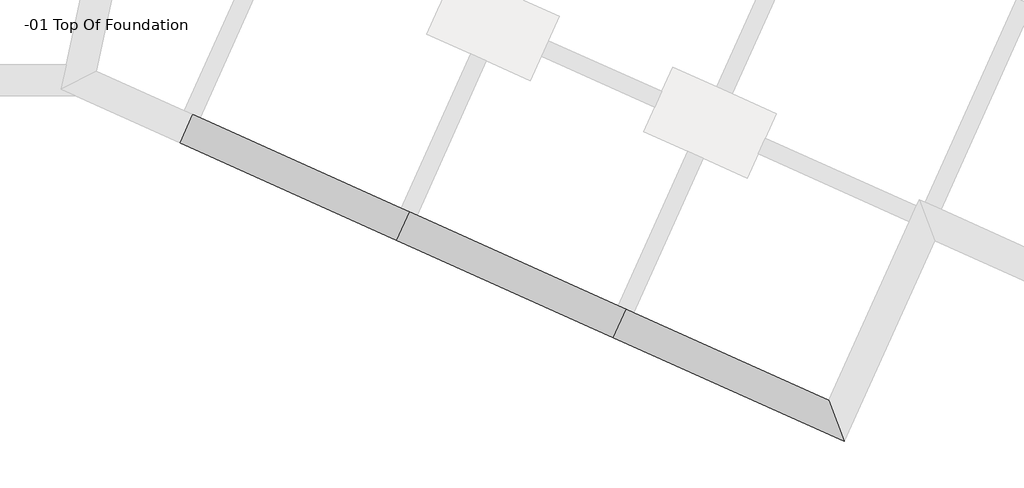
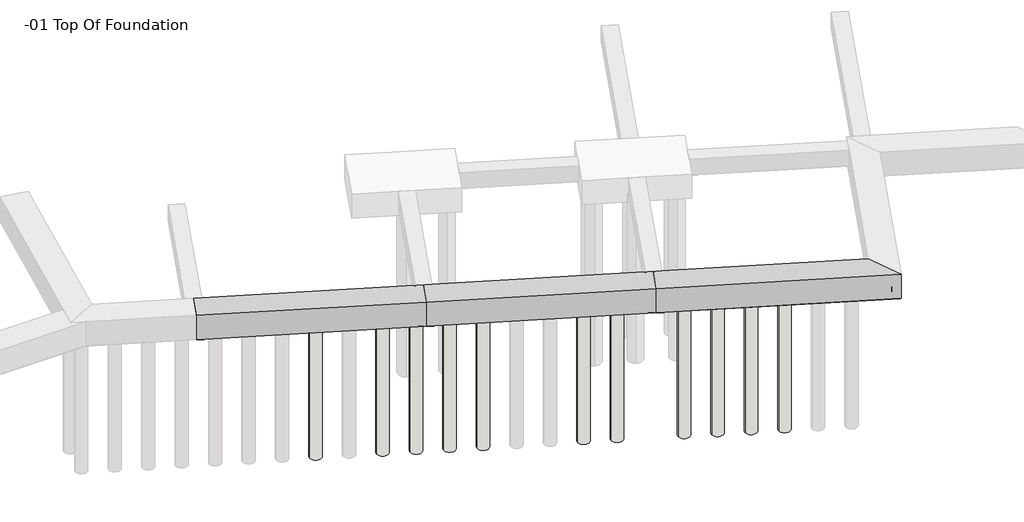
# One storey, part 3 of 6: 11 slabs, 3 beams.
"""IFC4 building model written with IfcOpenShell, lengths in millimetres."""

from ifc_helpers import new_model, si_unit, point, frame, frame_2d, origin, place, context, project, spatial, polyline, circle_curve, trimmed, segment, composite_curve, outline, extrude, element, save
from ifc_brep_helpers import plane_surface, revolved_surface, advanced_brep

model = new_model("IFC4")

# Units and contexts
model_context = context("Model", 3, world=origin())
ifc_project = project(units=[si_unit("LENGTHUNIT", "METRE", prefix="MILLI")], contexts=[model_context])

# Site, building, storey
site = spatial("IfcSite", under=ifc_project)
building = spatial("IfcBuilding", under=site)
storey = spatial("IfcBuildingStorey", under=building, Name="-01 Top Of Foundation", Elevation=-304.8)

# Beams
placement = place(None, origin())
element("IfcBeam", 1, ObjectType="Ring Beam : 16 x 32", at=placement, inside=storey, context=model_context, shape_type="AdvancedBrep", body=[
    advanced_brep(
    [(37370.2819449, -18704.9317073, -304.8), (30975.429262, -15832.377561, -304.8), (30975.429262, -15832.377561, -1193.8), (37370.2819449, -18704.9317073, -1193.8), (37744.9629205, -17870.8204878, -304.8), (37513.2653595, -17766.742439, -304.8), (31581.8077985, -15102.3443902, -304.8), (31350.1102376, -14998.2663415, -304.8), (30985.8370668, -15809.2078049, -1219.2), (37380.6897498, -18681.7619512, -1219.2), (31339.7024327, -15021.4360976, -1219.2), (37734.5551156, -17893.9902439, -1219.2), (31525.3723494, -15668.3307317, -1219.2), (31931.7723494, -15668.3307317, -1219.2), (32456.3101218, -16086.5634146, -1219.2), (32862.7101218, -16086.5634146, -1219.2), (33387.2478943, -16504.7960976, -1219.2), (33793.6478943, -16504.7960976, -1219.2), (34318.1856668, -16923.0287805, -1219.2), (34724.5856668, -16923.0287805, -1219.2), (35249.1234392, -17341.2614634, -1219.2), (35655.5234392, -17341.2614634, -1219.2), (36180.0612117, -17759.4941463, -1219.2), (36586.4612117, -17759.4941463, -1219.2), (37110.9989841, -18177.7268293, -1219.2), (37517.3989841, -18177.7268293, -1219.2), (31350.1102376, -14998.2663415, -1193.8), (37744.9629205, -17870.8204878, -1193.8), (31931.7723494, -15668.3307317, -1066.8), (31525.3723494, -15668.3307317, -1066.8), (32862.7101218, -16086.5634146, -1066.8), (32456.3101218, -16086.5634146, -1066.8), (33793.6478943, -16504.7960976, -1066.8), (33387.2478943, -16504.7960976, -1066.8), (34724.5856668, -16923.0287805, -1066.8), (34318.1856668, -16923.0287805, -1066.8), (35655.5234392, -17341.2614634, -1066.8), (35249.1234392, -17341.2614634, -1066.8), (36586.4612117, -17759.4941463, -1066.8), (36180.0612117, -17759.4941463, -1066.8), (37517.3989841, -18177.7268293, -1066.8), (37110.9989841, -18177.7268293, -1066.8)],
    [
        (0, 1),
        (1, 2),
        (2, 3),
        (3, 0),
        (0, 4),
        (4, 5),
        (5, 6),
        (6, 7),
        (7, 1),
        (2, 8),
        (8, 9),
        (9, 3),
        (8, 10),
        (10, 11),
        (11, 9),
        (12, 13, circle_curve(frame((31728.5723494, -15668.3307317, -1219.2), z_axis=(0.0, 0.0, 1.0), x_axis=(1.0, 0.0, 0.0)), 203.2)),
        (13, 12, circle_curve(frame((31728.5723494, -15668.3307317, -1219.2), z_axis=(0.0, 0.0, 1.0), x_axis=(1.0, 0.0, 0.0)), 203.2)),
        (14, 15, circle_curve(frame((32659.5101218, -16086.5634146, -1219.2), z_axis=(0.0, 0.0, 1.0), x_axis=(1.0, 0.0, 0.0)), 203.2)),
        (15, 14, circle_curve(frame((32659.5101218, -16086.5634146, -1219.2), z_axis=(0.0, 0.0, 1.0), x_axis=(1.0, 0.0, 0.0)), 203.2)),
        (16, 17, circle_curve(frame((33590.4478943, -16504.7960976, -1219.2), z_axis=(0.0, 0.0, 1.0), x_axis=(1.0, 0.0, 0.0)), 203.2)),
        (17, 16, circle_curve(frame((33590.4478943, -16504.7960976, -1219.2), z_axis=(0.0, 0.0, 1.0), x_axis=(1.0, 0.0, 0.0)), 203.2)),
        (18, 19, circle_curve(frame((34521.3856668, -16923.0287805, -1219.2), z_axis=(0.0, 0.0, 1.0), x_axis=(1.0, 0.0, 0.0)), 203.2)),
        (19, 18, circle_curve(frame((34521.3856668, -16923.0287805, -1219.2), z_axis=(0.0, 0.0, 1.0), x_axis=(1.0, 0.0, 0.0)), 203.2)),
        (20, 21, circle_curve(frame((35452.3234392, -17341.2614634, -1219.2), z_axis=(0.0, 0.0, 1.0), x_axis=(1.0, 0.0, 0.0)), 203.2)),
        (21, 20, circle_curve(frame((35452.3234392, -17341.2614634, -1219.2), z_axis=(0.0, 0.0, 1.0), x_axis=(1.0, 0.0, 0.0)), 203.2)),
        (22, 23, circle_curve(frame((36383.2612117, -17759.4941463, -1219.2), z_axis=(0.0, 0.0, 1.0), x_axis=(1.0, 0.0, 0.0)), 203.2)),
        (23, 22, circle_curve(frame((36383.2612117, -17759.4941463, -1219.2), z_axis=(0.0, 0.0, 1.0), x_axis=(1.0, 0.0, 0.0)), 203.2)),
        (24, 25, circle_curve(frame((37314.1989841, -18177.7268293, -1219.2), z_axis=(0.0, 0.0, 1.0), x_axis=(1.0, 0.0, 0.0)), 203.2)),
        (25, 24, circle_curve(frame((37314.1989841, -18177.7268293, -1219.2), z_axis=(0.0, 0.0, 1.0), x_axis=(1.0, 0.0, 0.0)), 203.2)),
        (10, 26),
        (26, 27),
        (27, 11),
        (4, 27),
        (26, 7),
        (28, 29, circle_curve(frame((31728.5723494, -15668.3307317, -1066.8), z_axis=(0.0, 0.0, -1.0), x_axis=(1.0, 0.0, 0.0)), 203.2)),
        (29, 28, circle_curve(frame((31728.5723494, -15668.3307317, -1066.8), z_axis=(0.0, 0.0, -1.0), x_axis=(1.0, 0.0, 0.0)), 203.2)),
        (28, 13),
        (12, 29),
        (30, 31, circle_curve(frame((32659.5101218, -16086.5634146, -1066.8), z_axis=(0.0, 0.0, -1.0), x_axis=(1.0, 0.0, 0.0)), 203.2)),
        (31, 30, circle_curve(frame((32659.5101218, -16086.5634146, -1066.8), z_axis=(0.0, 0.0, -1.0), x_axis=(1.0, 0.0, 0.0)), 203.2)),
        (30, 15),
        (14, 31),
        (32, 33, circle_curve(frame((33590.4478943, -16504.7960976, -1066.8), z_axis=(0.0, 0.0, -1.0), x_axis=(1.0, 0.0, 0.0)), 203.2)),
        (33, 32, circle_curve(frame((33590.4478943, -16504.7960976, -1066.8), z_axis=(0.0, 0.0, -1.0), x_axis=(1.0, 0.0, 0.0)), 203.2)),
        (32, 17),
        (16, 33),
        (34, 35, circle_curve(frame((34521.3856668, -16923.0287805, -1066.8), z_axis=(0.0, 0.0, -1.0), x_axis=(1.0, 0.0, 0.0)), 203.2)),
        (35, 34, circle_curve(frame((34521.3856668, -16923.0287805, -1066.8), z_axis=(0.0, 0.0, -1.0), x_axis=(1.0, 0.0, 0.0)), 203.2)),
        (34, 19),
        (18, 35),
        (36, 37, circle_curve(frame((35452.3234392, -17341.2614634, -1066.8), z_axis=(0.0, 0.0, -1.0), x_axis=(1.0, 0.0, 0.0)), 203.2)),
        (37, 36, circle_curve(frame((35452.3234392, -17341.2614634, -1066.8), z_axis=(0.0, 0.0, -1.0), x_axis=(1.0, 0.0, 0.0)), 203.2)),
        (36, 21),
        (20, 37),
        (38, 39, circle_curve(frame((36383.2612117, -17759.4941463, -1066.8), z_axis=(0.0, 0.0, -1.0), x_axis=(1.0, 0.0, 0.0)), 203.2)),
        (39, 38, circle_curve(frame((36383.2612117, -17759.4941463, -1066.8), z_axis=(0.0, 0.0, -1.0), x_axis=(1.0, 0.0, 0.0)), 203.2)),
        (38, 23),
        (22, 39),
        (40, 41, circle_curve(frame((37314.1989841, -18177.7268293, -1066.8), z_axis=(0.0, 0.0, -1.0), x_axis=(1.0, 0.0, 0.0)), 203.2)),
        (41, 40, circle_curve(frame((37314.1989841, -18177.7268293, -1066.8), z_axis=(0.0, 0.0, -1.0), x_axis=(1.0, 0.0, 0.0)), 203.2)),
        (40, 25),
        (24, 41),
    ],
    [
        plane_surface(frame((37126.9995059, -18595.6497561, -304.8), z_axis=(-0.40975609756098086, -0.9121951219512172, 0.0), x_axis=(-0.9121951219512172, 0.40975609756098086, 0.0))),
        plane_surface(frame((37501.6804815, -17761.5385366, -304.8), z_axis=(0.0, 0.0, 1.0000000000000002), x_axis=(-0.9121951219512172, 0.40975609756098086, 0.0))),
        plane_surface(frame((37126.9995059, -18595.6497561, -1193.8), z_axis=(-0.2897413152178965, -0.645019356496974, -0.7071067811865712), x_axis=(-0.9121951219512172, 0.40975609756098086, 0.0))),
        plane_surface(frame((37137.4073107, -18572.48, -1219.2), z_axis=(0.0, 0.0, -1.0000000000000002), x_axis=(-0.9121951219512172, 0.40975609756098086, 0.0))),
        plane_surface(frame((37491.2726766, -17784.7082927, -1219.2), z_axis=(0.2897413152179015, 0.645019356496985, -0.7071067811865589), x_axis=(-0.9121951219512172, 0.40975609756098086, 0.0))),
        plane_surface(frame((37501.6804815, -17761.5385366, -1193.8), z_axis=(0.40975609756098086, 0.9121951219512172, 0.0), x_axis=(-0.9121951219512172, 0.40975609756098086, 0.0))),
        plane_surface(frame((31162.7697498, -15415.3219512, -304.8), z_axis=(-0.9121951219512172, 0.40975609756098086, 0.0), x_axis=(0.40975609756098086, 0.9121951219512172, 0.0))),
        plane_surface(frame((37557.6224327, -18287.8760976, -304.8), z_axis=(0.9121951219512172, -0.40975609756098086, 0.0), x_axis=(0.40975609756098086, 0.9121951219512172, 0.0))),
        plane_surface(frame((31931.7723494, -15668.3307317, -1066.8), z_axis=(0.0, 0.0, -1.0), x_axis=(0.0, 1.0, 0.0))),
        revolved_surface(polyline([(31931.772349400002, -15668.3307317, -1066.8000000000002), (31931.772349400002, -15668.3307317, -1219.1999999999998)]), (31728.5723494, -15668.3307317, -6096.0), (0.0, 0.0, 1.0)),
        plane_surface(frame((32862.7101218, -16086.5634146, -1066.8), z_axis=(0.0, 0.0, -1.0), x_axis=(0.0, 1.0, 0.0))),
        revolved_surface(polyline([(32862.7101218, -16086.5634146, -1066.8000000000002), (32862.7101218, -16086.5634146, -1219.1999999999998)]), (32659.5101218, -16086.5634146, -6096.0), (0.0, 0.0, 1.0)),
        plane_surface(frame((33793.6478943, -16504.7960976, -1066.8), z_axis=(0.0, 0.0, -1.0), x_axis=(0.0, 1.0, 0.0))),
        revolved_surface(polyline([(33793.6478943, -16504.7960976, -1066.8000000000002), (33793.6478943, -16504.7960976, -1219.1999999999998)]), (33590.4478943, -16504.7960976, -6096.0), (0.0, 0.0, 1.0)),
        plane_surface(frame((34724.5856668, -16923.0287805, -1066.8), z_axis=(0.0, 0.0, -1.0), x_axis=(0.0, 1.0, 0.0))),
        revolved_surface(polyline([(34724.5856668, -16923.0287805, -1066.8000000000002), (34724.5856668, -16923.0287805, -1219.1999999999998)]), (34521.3856668, -16923.0287805, -6096.0), (0.0, 0.0, 1.0)),
        plane_surface(frame((35655.5234392, -17341.2614634, -1066.8), z_axis=(0.0, 0.0, -1.0), x_axis=(0.0, 1.0, 0.0))),
        revolved_surface(polyline([(35655.5234392, -17341.2614634, -1066.8000000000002), (35655.5234392, -17341.2614634, -1219.1999999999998)]), (35452.3234392, -17341.2614634, -6096.0), (0.0, 0.0, 1.0)),
        plane_surface(frame((36586.4612117, -17759.4941463, -1066.8), z_axis=(0.0, 0.0, -1.0), x_axis=(0.0, 1.0, 0.0))),
        revolved_surface(polyline([(36586.4612117, -17759.4941463, -1066.8000000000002), (36586.4612117, -17759.4941463, -1219.1999999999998)]), (36383.2612117, -17759.4941463, -6096.0), (0.0, 0.0, 1.0)),
        plane_surface(frame((37517.3989841, -18177.7268293, -1066.8), z_axis=(0.0, 0.0, -1.0), x_axis=(0.0, 1.0, 0.0))),
        revolved_surface(polyline([(37517.3989841, -18177.7268293, -1066.8000000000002), (37517.3989841, -18177.7268293, -1219.1999999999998)]), (37314.1989841, -18177.7268293, -6096.0), (0.0, 0.0, 1.0)),
    ],
    [
        (0, [[1, 2, 3, 4]]),
        (1, [[-1, 5, 6, 7, 8, 9]]),
        (2, [[-3, 10, 11, 12]]),
        (3, [[-11, 13, 14, 15], [16, 17], [18, 19], [20, 21], [22, 23], [24, 25], [26, 27], [28, 29]]),
        (4, [[-14, 30, 31, 32]]),
        (5, [[-8, -7, -6, 33, -31, 34]]),
        (6, [[-34, -30, -13, -10, -2, -9]]),
        (7, [[-5, -4, -12, -15, -32, -33]]),
        (8, [[35, 36]]),
        (9, [[-35, 37, -16, 38]]),
        (9, [[-36, -38, -17, -37]]),
        (10, [[39, 40]]),
        (11, [[-39, 41, -18, 42]]),
        (11, [[-40, -42, -19, -41]]),
        (12, [[43, 44]]),
        (13, [[-43, 45, -20, 46]]),
        (13, [[-44, -46, -21, -45]]),
        (14, [[47, 48]]),
        (15, [[-47, 49, -22, 50]]),
        (15, [[-48, -50, -23, -49]]),
        (16, [[51, 52]]),
        (17, [[-51, 53, -24, 54]]),
        (17, [[-52, -54, -25, -53]]),
        (18, [[55, 56]]),
        (19, [[-55, 57, -26, 58]]),
        (19, [[-56, -58, -27, -57]]),
        (20, [[59, 60]]),
        (21, [[-59, 61, -28, 62]]),
        (21, [[-60, -62, -29, -61]]),
    ],
),
])
element("IfcBeam", 2, ObjectType="Ring Beam : 16 x 32", at=placement, inside=storey, context=model_context, shape_type="AdvancedBrep", body=[
    advanced_brep(
    [(43765.1346278, -21577.4858537, -304.8), (37370.2819449, -18704.9317073, -304.8), (37370.2819449, -18704.9317073, -1193.8), (43765.1346278, -21577.4858537, -1193.8), (44139.8156034, -20743.3746341, -304.8), (43908.1180425, -20639.2965854, -304.8), (37976.6604815, -17974.8985366, -304.8), (37744.9629205, -17870.8204878, -304.8), (37380.6897498, -18681.7619512, -1219.2), (43775.5424327, -21554.3160976, -1219.2), (37734.5551156, -17893.9902439, -1219.2), (44129.4077985, -20766.5443902, -1219.2), (44015.3641203, -21020.4273407, -1219.2), (43627.5633913, -21105.3556098, -1219.2), (43889.8866191, -21299.7641588, -1219.2), (38041.9367566, -18595.9595122, -1219.2), (38448.3367566, -18595.9595122, -1219.2), (38972.874529, -19014.1921951, -1219.2), (39379.274529, -19014.1921951, -1219.2), (39903.8123015, -19432.424878, -1219.2), (40310.2123015, -19432.424878, -1219.2), (40834.750074, -19850.657561, -1219.2), (41241.150074, -19850.657561, -1219.2), (41765.6878464, -20268.8902439, -1219.2), (42172.0878464, -20268.8902439, -1219.2), (42696.6256189, -20687.1229268, -1219.2), (43103.0256189, -20687.1229268, -1219.2), (37744.9629205, -17870.8204878, -1193.8), (44139.8156034, -20743.3746341, -1193.8), (43889.8866191, -21299.7641588, -1066.8), (44015.3641203, -21020.4273407, -1066.8), (38448.3367566, -18595.9595122, -1066.8), (38041.9367566, -18595.9595122, -1066.8), (39379.274529, -19014.1921951, -1066.8), (38972.874529, -19014.1921951, -1066.8), (40310.2123015, -19432.424878, -1066.8), (39903.8123015, -19432.424878, -1066.8), (41241.150074, -19850.657561, -1066.8), (40834.750074, -19850.657561, -1066.8), (42172.0878464, -20268.8902439, -1066.8), (41765.6878464, -20268.8902439, -1066.8), (43103.0256189, -20687.1229268, -1066.8), (42696.6256189, -20687.1229268, -1066.8), (43627.5633913, -21105.3556098, -1066.8)],
    [
        (0, 1),
        (1, 2),
        (2, 3),
        (3, 0),
        (0, 4),
        (4, 5),
        (5, 6),
        (6, 7),
        (7, 1),
        (2, 8),
        (8, 9),
        (9, 3),
        (8, 10),
        (10, 11),
        (11, 12),
        (12, 13, circle_curve(frame((43830.7633913, -21105.3556098, -1219.2), z_axis=(0.0, 0.0, 1.0), x_axis=(1.0, 0.0, 0.0)), 203.2)),
        (13, 14, circle_curve(frame((43830.7633913, -21105.3556098, -1219.2), z_axis=(0.0, 0.0, 1.0), x_axis=(1.0, 0.0, 0.0)), 203.2)),
        (14, 9),
        (15, 16, circle_curve(frame((38245.1367566, -18595.9595122, -1219.2), z_axis=(0.0, 0.0, 1.0), x_axis=(1.0, 0.0, 0.0)), 203.2)),
        (16, 15, circle_curve(frame((38245.1367566, -18595.9595122, -1219.2), z_axis=(0.0, 0.0, 1.0), x_axis=(1.0, 0.0, 0.0)), 203.2)),
        (17, 18, circle_curve(frame((39176.074529, -19014.1921951, -1219.2), z_axis=(0.0, 0.0, 1.0), x_axis=(1.0, 0.0, 0.0)), 203.2)),
        (18, 17, circle_curve(frame((39176.074529, -19014.1921951, -1219.2), z_axis=(0.0, 0.0, 1.0), x_axis=(1.0, 0.0, 0.0)), 203.2)),
        (19, 20, circle_curve(frame((40107.0123015, -19432.424878, -1219.2), z_axis=(0.0, 0.0, 1.0), x_axis=(1.0, 0.0, 0.0)), 203.2)),
        (20, 19, circle_curve(frame((40107.0123015, -19432.424878, -1219.2), z_axis=(0.0, 0.0, 1.0), x_axis=(1.0, 0.0, 0.0)), 203.2)),
        (21, 22, circle_curve(frame((41037.950074, -19850.657561, -1219.2), z_axis=(0.0, 0.0, 1.0), x_axis=(1.0, 0.0, 0.0)), 203.2)),
        (22, 21, circle_curve(frame((41037.950074, -19850.657561, -1219.2), z_axis=(0.0, 0.0, 1.0), x_axis=(1.0, 0.0, 0.0)), 203.2)),
        (23, 24, circle_curve(frame((41968.8878464, -20268.8902439, -1219.2), z_axis=(0.0, 0.0, 1.0), x_axis=(1.0, 0.0, 0.0)), 203.2)),
        (24, 23, circle_curve(frame((41968.8878464, -20268.8902439, -1219.2), z_axis=(0.0, 0.0, 1.0), x_axis=(1.0, 0.0, 0.0)), 203.2)),
        (25, 26, circle_curve(frame((42899.8256189, -20687.1229268, -1219.2), z_axis=(0.0, 0.0, 1.0), x_axis=(1.0, 0.0, 0.0)), 203.2)),
        (26, 25, circle_curve(frame((42899.8256189, -20687.1229268, -1219.2), z_axis=(0.0, 0.0, 1.0), x_axis=(1.0, 0.0, 0.0)), 203.2)),
        (10, 27),
        (27, 28),
        (28, 11),
        (4, 28),
        (27, 7),
        (14, 29),
        (29, 30),
        (30, 12),
        (31, 32, circle_curve(frame((38245.1367566, -18595.9595122, -1066.8), z_axis=(0.0, 0.0, -1.0), x_axis=(1.0, 0.0, 0.0)), 203.2)),
        (32, 31, circle_curve(frame((38245.1367566, -18595.9595122, -1066.8), z_axis=(0.0, 0.0, -1.0), x_axis=(1.0, 0.0, 0.0)), 203.2)),
        (31, 16),
        (15, 32),
        (33, 34, circle_curve(frame((39176.074529, -19014.1921951, -1066.8), z_axis=(0.0, 0.0, -1.0), x_axis=(1.0, 0.0, 0.0)), 203.2)),
        (34, 33, circle_curve(frame((39176.074529, -19014.1921951, -1066.8), z_axis=(0.0, 0.0, -1.0), x_axis=(1.0, 0.0, 0.0)), 203.2)),
        (33, 18),
        (17, 34),
        (35, 36, circle_curve(frame((40107.0123015, -19432.424878, -1066.8), z_axis=(0.0, 0.0, -1.0), x_axis=(1.0, 0.0, 0.0)), 203.2)),
        (36, 35, circle_curve(frame((40107.0123015, -19432.424878, -1066.8), z_axis=(0.0, 0.0, -1.0), x_axis=(1.0, 0.0, 0.0)), 203.2)),
        (35, 20),
        (19, 36),
        (37, 38, circle_curve(frame((41037.950074, -19850.657561, -1066.8), z_axis=(0.0, 0.0, -1.0), x_axis=(1.0, 0.0, 0.0)), 203.2)),
        (38, 37, circle_curve(frame((41037.950074, -19850.657561, -1066.8), z_axis=(0.0, 0.0, -1.0), x_axis=(1.0, 0.0, 0.0)), 203.2)),
        (37, 22),
        (21, 38),
        (39, 40, circle_curve(frame((41968.8878464, -20268.8902439, -1066.8), z_axis=(0.0, 0.0, -1.0), x_axis=(1.0, 0.0, 0.0)), 203.2)),
        (40, 39, circle_curve(frame((41968.8878464, -20268.8902439, -1066.8), z_axis=(0.0, 0.0, -1.0), x_axis=(1.0, 0.0, 0.0)), 203.2)),
        (39, 24),
        (23, 40),
        (41, 42, circle_curve(frame((42899.8256189, -20687.1229268, -1066.8), z_axis=(0.0, 0.0, -1.0), x_axis=(1.0, 0.0, 0.0)), 203.2)),
        (42, 41, circle_curve(frame((42899.8256189, -20687.1229268, -1066.8), z_axis=(0.0, 0.0, -1.0), x_axis=(1.0, 0.0, 0.0)), 203.2)),
        (41, 26),
        (25, 42),
        (43, 30, circle_curve(frame((43830.7633913, -21105.3556098, -1066.8), z_axis=(0.0, 0.0, -1.0), x_axis=(1.0, 0.0, 0.0)), 203.2)),
        (29, 43, circle_curve(frame((43830.7633913, -21105.3556098, -1066.8), z_axis=(0.0, 0.0, -1.0), x_axis=(1.0, 0.0, 0.0)), 203.2)),
        (13, 43),
    ],
    [
        plane_surface(frame((43521.8521888, -21468.2039024, -304.8), z_axis=(-0.409756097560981, -0.9121951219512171, 0.0), x_axis=(-0.9121951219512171, 0.409756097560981, 0.0))),
        plane_surface(frame((43896.5331644, -20634.0926829, -304.8), z_axis=(0.0, 0.0, 1.0), x_axis=(-0.9121951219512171, 0.409756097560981, 0.0))),
        plane_surface(frame((43521.8521888, -21468.2039024, -1193.8), z_axis=(-0.2897413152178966, -0.6450193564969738, -0.7071067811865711), x_axis=(-0.9121951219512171, 0.409756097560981, 0.0))),
        plane_surface(frame((43532.2599937, -21445.0341463, -1219.2), z_axis=(0.0, 0.0, -1.0), x_axis=(-0.9121951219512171, 0.409756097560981, 0.0))),
        plane_surface(frame((43886.1253595, -20657.262439, -1219.2), z_axis=(0.2897413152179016, 0.645019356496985, -0.7071067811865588), x_axis=(-0.9121951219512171, 0.409756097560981, 0.0))),
        plane_surface(frame((43896.5331644, -20634.0926829, -1193.8), z_axis=(0.409756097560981, 0.9121951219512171, 0.0), x_axis=(-0.9121951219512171, 0.409756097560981, 0.0))),
        plane_surface(frame((37557.6224327, -18287.8760976, -304.8), z_axis=(-0.9121951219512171, 0.409756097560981, 0.0), x_axis=(0.409756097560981, 0.9121951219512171, 0.0))),
        plane_surface(frame((43952.4751156, -21160.4302439, -304.8), z_axis=(0.9121951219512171, -0.409756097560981, 0.0), x_axis=(0.409756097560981, 0.9121951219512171, 0.0))),
        plane_surface(frame((38448.3367566, -18595.9595122, -1066.8), z_axis=(0.0, 0.0, -1.0), x_axis=(0.0, 1.0, 0.0))),
        revolved_surface(polyline([(38448.336756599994, -18595.9595122, -1066.8000000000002), (38448.336756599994, -18595.9595122, -1219.1999999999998)]), (38245.1367566, -18595.9595122, -6096.0), (0.0, 0.0, 1.0)),
        plane_surface(frame((39379.274529, -19014.1921951, -1066.8), z_axis=(0.0, 0.0, -1.0), x_axis=(0.0, 1.0, 0.0))),
        revolved_surface(polyline([(39379.274528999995, -19014.1921951, -1066.8000000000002), (39379.274528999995, -19014.1921951, -1219.1999999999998)]), (39176.074529, -19014.1921951, -6096.0), (0.0, 0.0, 1.0)),
        plane_surface(frame((40310.2123015, -19432.424878, -1066.8), z_axis=(0.0, 0.0, -1.0), x_axis=(0.0, 1.0, 0.0))),
        revolved_surface(polyline([(40310.212301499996, -19432.424878, -1066.8000000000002), (40310.212301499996, -19432.424878, -1219.1999999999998)]), (40107.0123015, -19432.424878, -6096.0), (0.0, 0.0, 1.0)),
        plane_surface(frame((41241.150074, -19850.657561, -1066.8), z_axis=(0.0, 0.0, -1.0), x_axis=(0.0, 1.0, 0.0))),
        revolved_surface(polyline([(41241.150074, -19850.657561, -1066.8000000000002), (41241.150074, -19850.657561, -1219.1999999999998)]), (41037.950074, -19850.657561, -6096.0), (0.0, 0.0, 1.0)),
        plane_surface(frame((42172.0878464, -20268.8902439, -1066.8), z_axis=(0.0, 0.0, -1.0), x_axis=(0.0, 1.0, 0.0))),
        revolved_surface(polyline([(42172.0878464, -20268.8902439, -1066.8000000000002), (42172.0878464, -20268.8902439, -1219.1999999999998)]), (41968.8878464, -20268.8902439, -6096.0), (0.0, 0.0, 1.0)),
        plane_surface(frame((43103.0256189, -20687.1229268, -1066.8), z_axis=(0.0, 0.0, -1.0), x_axis=(0.0, 1.0, 0.0))),
        revolved_surface(polyline([(43103.0256189, -20687.1229268, -1066.8000000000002), (43103.0256189, -20687.1229268, -1219.1999999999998)]), (42899.8256189, -20687.1229268, -6096.0), (0.0, 0.0, 1.0)),
        plane_surface(frame((44033.9633913, -21105.3556098, -1066.8), z_axis=(0.0, 0.0, -1.0), x_axis=(0.0, 1.0, 0.0))),
        revolved_surface(polyline([(44033.9633913, -21105.3556098, -1066.8000000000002), (44033.9633913, -21105.3556098, -1219.1999999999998)]), (43830.7633913, -21105.3556098, -6096.0), (0.0, 0.0, 1.0)),
    ],
    [
        (0, [[1, 2, 3, 4]]),
        (1, [[-1, 5, 6, 7, 8, 9]]),
        (2, [[-3, 10, 11, 12]]),
        (3, [[-11, 13, 14, 15, 16, 17, 18], [19, 20], [21, 22], [23, 24], [25, 26], [27, 28], [29, 30]]),
        (4, [[-14, 31, 32, 33]]),
        (5, [[-8, -7, -6, 34, -32, 35]]),
        (6, [[-35, -31, -13, -10, -2, -9]]),
        (7, [[-5, -4, -12, -18, 36, 37, 38, -15, -33, -34]]),
        (8, [[39, 40]]),
        (9, [[-39, 41, -19, 42]]),
        (9, [[-40, -42, -20, -41]]),
        (10, [[43, 44]]),
        (11, [[-43, 45, -21, 46]]),
        (11, [[-44, -46, -22, -45]]),
        (12, [[47, 48]]),
        (13, [[-47, 49, -23, 50]]),
        (13, [[-48, -50, -24, -49]]),
        (14, [[51, 52]]),
        (15, [[-51, 53, -25, 54]]),
        (15, [[-52, -54, -26, -53]]),
        (16, [[55, 56]]),
        (17, [[-55, 57, -27, 58]]),
        (17, [[-56, -58, -28, -57]]),
        (18, [[59, 60]]),
        (19, [[-59, 61, -29, 62]]),
        (19, [[-60, -62, -30, -61]]),
        (20, [[63, -37, 64]]),
        (21, [[-64, -36, -17, 65]]),
        (21, [[-63, -65, -16, -38]]),
    ],
),
])
element("IfcBeam", 3, ObjectType="Ring Beam : 16 x 32", at=placement, inside=storey, context=model_context, shape_type="AdvancedBrep", body=[
    advanced_brep(
    [(50577.0429205, -24637.3804878, -304.8), (43765.1346278, -21577.4858537, -304.8), (43765.1346278, -21577.4858537, -1193.8), (50577.0429205, -24637.3804878, -1193.8), (50117.6126766, -23428.5882927, -304.8), (44371.5131644, -20847.4526829, -304.8), (44139.8156034, -20743.3746341, -304.8), (43775.5424327, -21554.3160976, -1219.2), (50564.2809693, -24603.8029268, -1219.2), (43889.8866191, -21299.7641588, -1219.2), (44033.9633913, -21105.3556098, -1219.2), (44015.3641203, -21020.4273407, -1219.2), (44129.4077985, -20766.5443902, -1219.2), (50130.3746278, -23462.1658537, -1219.2), (50275.1353006, -23843.0410218, -1219.2), (50161.9697498, -23949.7219512, -1219.2), (50419.5202965, -24222.9277587, -1219.2), (44558.5011638, -21523.5882927, -1219.2), (44964.9011638, -21523.5882927, -1219.2), (45489.4389363, -21941.8209756, -1219.2), (45895.8389363, -21941.8209756, -1219.2), (46420.3767087, -22360.0536585, -1219.2), (46826.7767087, -22360.0536585, -1219.2), (47351.3144812, -22778.2863415, -1219.2), (47757.7144812, -22778.2863415, -1219.2), (48282.2522536, -23196.5190244, -1219.2), (48688.6522536, -23196.5190244, -1219.2), (49213.1900261, -23614.7517073, -1219.2), (49619.5900261, -23614.7517073, -1219.2), (44139.8156034, -20743.3746341, -1193.8), (50117.6126766, -23428.5882927, -1193.8), (44015.3641203, -21020.4273407, -1066.8), (43889.8866191, -21299.7641588, -1066.8), (44033.9633913, -21105.3556098, -1066.8), (44964.9011638, -21523.5882927, -1066.8), (44558.5011638, -21523.5882927, -1066.8), (45895.8389363, -21941.8209756, -1066.8), (45489.4389363, -21941.8209756, -1066.8), (46826.7767087, -22360.0536585, -1066.8), (46420.3767087, -22360.0536585, -1066.8), (47757.7144812, -22778.2863415, -1066.8), (47351.3144812, -22778.2863415, -1066.8), (48688.6522536, -23196.5190244, -1066.8), (48282.2522536, -23196.5190244, -1066.8), (49619.5900261, -23614.7517073, -1066.8), (49213.1900261, -23614.7517073, -1066.8), (50161.9697498, -23949.7219512, -1066.8), (50275.1353006, -23843.0410218, -1066.8), (50419.5202965, -24222.9277587, -1066.8)],
    [
        (0, 1),
        (1, 2),
        (2, 3),
        (3, 0),
        (0, 4),
        (4, 5),
        (5, 6),
        (6, 1),
        (2, 7),
        (7, 8),
        (8, 3),
        (7, 9),
        (9, 10, circle_curve(frame((43830.7633913, -21105.3556098, -1219.2), z_axis=(0.0, 0.0, 1.0), x_axis=(1.0, 0.0, 0.0)), 203.2)),
        (10, 11, circle_curve(frame((43830.7633913, -21105.3556098, -1219.2), z_axis=(0.0, 0.0, 1.0), x_axis=(1.0, 0.0, 0.0)), 203.2)),
        (11, 12),
        (12, 13),
        (13, 14),
        (14, 15, circle_curve(frame((50347.3277985, -24032.9843902, -1219.2), z_axis=(0.0, 0.0, 1.0), x_axis=(0.9121951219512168, -0.4097560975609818, 0.0)), 203.2)),
        (15, 16, circle_curve(frame((50347.3277985, -24032.9843902, -1219.2), z_axis=(0.0, 0.0, 1.0), x_axis=(0.9121951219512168, -0.4097560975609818, 0.0)), 203.2)),
        (16, 8),
        (17, 18, circle_curve(frame((44761.7011638, -21523.5882927, -1219.2), z_axis=(0.0, 0.0, 1.0), x_axis=(1.0, 0.0, 0.0)), 203.2)),
        (18, 17, circle_curve(frame((44761.7011638, -21523.5882927, -1219.2), z_axis=(0.0, 0.0, 1.0), x_axis=(1.0, 0.0, 0.0)), 203.2)),
        (19, 20, circle_curve(frame((45692.6389363, -21941.8209756, -1219.2), z_axis=(0.0, 0.0, 1.0), x_axis=(1.0, 0.0, 0.0)), 203.2)),
        (20, 19, circle_curve(frame((45692.6389363, -21941.8209756, -1219.2), z_axis=(0.0, 0.0, 1.0), x_axis=(1.0, 0.0, 0.0)), 203.2)),
        (21, 22, circle_curve(frame((46623.5767087, -22360.0536585, -1219.2), z_axis=(0.0, 0.0, 1.0), x_axis=(1.0, 0.0, 0.0)), 203.2)),
        (22, 21, circle_curve(frame((46623.5767087, -22360.0536585, -1219.2), z_axis=(0.0, 0.0, 1.0), x_axis=(1.0, 0.0, 0.0)), 203.2)),
        (23, 24, circle_curve(frame((47554.5144812, -22778.2863415, -1219.2), z_axis=(0.0, 0.0, 1.0), x_axis=(1.0, 0.0, 0.0)), 203.2)),
        (24, 23, circle_curve(frame((47554.5144812, -22778.2863415, -1219.2), z_axis=(0.0, 0.0, 1.0), x_axis=(1.0, 0.0, 0.0)), 203.2)),
        (25, 26, circle_curve(frame((48485.4522536, -23196.5190244, -1219.2), z_axis=(0.0, 0.0, 1.0), x_axis=(1.0, 0.0, 0.0)), 203.2)),
        (26, 25, circle_curve(frame((48485.4522536, -23196.5190244, -1219.2), z_axis=(0.0, 0.0, 1.0), x_axis=(1.0, 0.0, 0.0)), 203.2)),
        (27, 28, circle_curve(frame((49416.3900261, -23614.7517073, -1219.2), z_axis=(0.0, 0.0, 1.0), x_axis=(1.0, 0.0, 0.0)), 203.2)),
        (28, 27, circle_curve(frame((49416.3900261, -23614.7517073, -1219.2), z_axis=(0.0, 0.0, 1.0), x_axis=(1.0, 0.0, 0.0)), 203.2)),
        (12, 29),
        (29, 30),
        (30, 13),
        (4, 30),
        (29, 6),
        (11, 31),
        (31, 32),
        (32, 9),
        (31, 33, circle_curve(frame((43830.7633913, -21105.3556098, -1066.8), z_axis=(0.0, 0.0, -1.0), x_axis=(1.0, 0.0, 0.0)), 203.2)),
        (33, 32, circle_curve(frame((43830.7633913, -21105.3556098, -1066.8), z_axis=(0.0, 0.0, -1.0), x_axis=(1.0, 0.0, 0.0)), 203.2)),
        (33, 10),
        (34, 35, circle_curve(frame((44761.7011638, -21523.5882927, -1066.8), z_axis=(0.0, 0.0, -1.0), x_axis=(1.0, 0.0, 0.0)), 203.2)),
        (35, 34, circle_curve(frame((44761.7011638, -21523.5882927, -1066.8), z_axis=(0.0, 0.0, -1.0), x_axis=(1.0, 0.0, 0.0)), 203.2)),
        (34, 18),
        (17, 35),
        (36, 37, circle_curve(frame((45692.6389363, -21941.8209756, -1066.8), z_axis=(0.0, 0.0, -1.0), x_axis=(1.0, 0.0, 0.0)), 203.2)),
        (37, 36, circle_curve(frame((45692.6389363, -21941.8209756, -1066.8), z_axis=(0.0, 0.0, -1.0), x_axis=(1.0, 0.0, 0.0)), 203.2)),
        (36, 20),
        (19, 37),
        (38, 39, circle_curve(frame((46623.5767087, -22360.0536585, -1066.8), z_axis=(0.0, 0.0, -1.0), x_axis=(1.0, 0.0, 0.0)), 203.2)),
        (39, 38, circle_curve(frame((46623.5767087, -22360.0536585, -1066.8), z_axis=(0.0, 0.0, -1.0), x_axis=(1.0, 0.0, 0.0)), 203.2)),
        (38, 22),
        (21, 39),
        (40, 41, circle_curve(frame((47554.5144812, -22778.2863415, -1066.8), z_axis=(0.0, 0.0, -1.0), x_axis=(1.0, 0.0, 0.0)), 203.2)),
        (41, 40, circle_curve(frame((47554.5144812, -22778.2863415, -1066.8), z_axis=(0.0, 0.0, -1.0), x_axis=(1.0, 0.0, 0.0)), 203.2)),
        (40, 24),
        (23, 41),
        (42, 43, circle_curve(frame((48485.4522536, -23196.5190244, -1066.8), z_axis=(0.0, 0.0, -1.0), x_axis=(1.0, 0.0, 0.0)), 203.2)),
        (43, 42, circle_curve(frame((48485.4522536, -23196.5190244, -1066.8), z_axis=(0.0, 0.0, -1.0), x_axis=(1.0, 0.0, 0.0)), 203.2)),
        (42, 26),
        (25, 43),
        (44, 45, circle_curve(frame((49416.3900261, -23614.7517073, -1066.8), z_axis=(0.0, 0.0, -1.0), x_axis=(1.0, 0.0, 0.0)), 203.2)),
        (45, 44, circle_curve(frame((49416.3900261, -23614.7517073, -1066.8), z_axis=(0.0, 0.0, -1.0), x_axis=(1.0, 0.0, 0.0)), 203.2)),
        (44, 28),
        (27, 45),
        (46, 47, circle_curve(frame((50347.3277985, -24032.9843902, -1066.8), z_axis=(0.0, 0.0, -1.0), x_axis=(0.9121951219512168, -0.4097560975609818, 0.0)), 203.2)),
        (47, 48),
        (48, 46, circle_curve(frame((50347.3277985, -24032.9843902, -1066.8), z_axis=(0.0, 0.0, -1.0), x_axis=(0.9121951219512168, -0.4097560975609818, 0.0)), 203.2)),
        (48, 16),
        (15, 46),
        (14, 47),
    ],
    [
        plane_surface(frame((49731.3468229, -24257.4956098, -304.8), z_axis=(-0.40975609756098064, -0.9121951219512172, 0.0), x_axis=(-0.9121951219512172, 0.40975609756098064, 0.0))),
        plane_surface(frame((50106.0277985, -23423.3843902, -304.8), z_axis=(0.0, 0.0, 1.0), x_axis=(-0.9121951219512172, 0.40975609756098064, 0.0))),
        plane_surface(frame((49731.3468229, -24257.4956098, -1193.8), z_axis=(-0.2897413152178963, -0.645019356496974, -0.7071067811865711), x_axis=(-0.9121951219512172, 0.40975609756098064, 0.0))),
        plane_surface(frame((49741.7546278, -24234.3258537, -1219.2), z_axis=(0.0, 0.0, -1.0), x_axis=(-0.9121951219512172, 0.40975609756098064, 0.0))),
        plane_surface(frame((50095.6199937, -23446.5541463, -1219.2), z_axis=(0.2897413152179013, 0.645019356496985, -0.7071067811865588), x_axis=(-0.9121951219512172, 0.40975609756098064, 0.0))),
        plane_surface(frame((50106.0277985, -23423.3843902, -1193.8), z_axis=(0.40975609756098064, 0.9121951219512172, 0.0), x_axis=(-0.9121951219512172, 0.40975609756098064, 0.0))),
        plane_surface(frame((43952.4751156, -21160.4302439, -304.8), z_axis=(-0.9121951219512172, 0.4097560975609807, 0.0), x_axis=(0.4097560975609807, 0.9121951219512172, 0.0))),
        plane_surface(frame((44033.9633913, -21105.3556098, -1066.8), z_axis=(0.0, 0.0, -1.0), x_axis=(0.0, 1.0, 0.0))),
        revolved_surface(polyline([(44033.9633913, -21105.3556098, -1066.8000000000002), (44033.9633913, -21105.3556098, -1219.1999999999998)]), (43830.7633913, -21105.3556098, -6096.0), (0.0, 0.0, 1.0)),
        plane_surface(frame((44964.9011638, -21523.5882927, -1066.8), z_axis=(0.0, 0.0, -1.0), x_axis=(0.0, 1.0, 0.0))),
        revolved_surface(polyline([(44964.901163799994, -21523.5882927, -1066.8000000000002), (44964.901163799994, -21523.5882927, -1219.1999999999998)]), (44761.7011638, -21523.5882927, -6096.0), (0.0, 0.0, 1.0)),
        plane_surface(frame((45895.8389363, -21941.8209756, -1066.8), z_axis=(0.0, 0.0, -1.0), x_axis=(0.0, 1.0, 0.0))),
        revolved_surface(polyline([(45895.838936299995, -21941.8209756, -1066.8000000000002), (45895.838936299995, -21941.8209756, -1219.1999999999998)]), (45692.6389363, -21941.8209756, -6096.0), (0.0, 0.0, 1.0)),
        plane_surface(frame((46826.7767087, -22360.0536585, -1066.8), z_axis=(0.0, 0.0, -1.0), x_axis=(0.0, 1.0, 0.0))),
        revolved_surface(polyline([(46826.776708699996, -22360.0536585, -1066.8000000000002), (46826.776708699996, -22360.0536585, -1219.1999999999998)]), (46623.5767087, -22360.0536585, -6096.0), (0.0, 0.0, 1.0)),
        plane_surface(frame((47757.7144812, -22778.2863415, -1066.8), z_axis=(0.0, 0.0, -1.0), x_axis=(0.0, 1.0, 0.0))),
        revolved_surface(polyline([(47757.7144812, -22778.2863415, -1066.8000000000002), (47757.7144812, -22778.2863415, -1219.1999999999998)]), (47554.5144812, -22778.2863415, -6096.0), (0.0, 0.0, 1.0)),
        plane_surface(frame((48688.6522536, -23196.5190244, -1066.8), z_axis=(0.0, 0.0, -1.0), x_axis=(0.0, 1.0, 0.0))),
        revolved_surface(polyline([(48688.6522536, -23196.5190244, -1066.8000000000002), (48688.6522536, -23196.5190244, -1219.1999999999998)]), (48485.4522536, -23196.5190244, -6096.0), (0.0, 0.0, 1.0)),
        plane_surface(frame((49619.5900261, -23614.7517073, -1066.8), z_axis=(0.0, 0.0, -1.0), x_axis=(0.0, 1.0, 0.0))),
        revolved_surface(polyline([(49619.5900261, -23614.7517073, -1066.8000000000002), (49619.5900261, -23614.7517073, -1219.1999999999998)]), (49416.3900261, -23614.7517073, -6096.0), (0.0, 0.0, 1.0)),
        plane_surface(frame((50532.6858473, -24116.2468293, -1066.8), z_axis=(0.0, 0.0, -1.0), x_axis=(0.4097560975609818, 0.9121951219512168, 0.0))),
        revolved_surface(polyline([(50532.68584728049, -24116.24682922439, -1066.8000000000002), (50532.68584728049, -24116.24682922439, -1219.1999999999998)]), (50347.3277985, -24032.9843902, -6096.0), (0.0, 0.0, 1.0)),
        plane_surface(frame((50117.6126766, -23428.5882927, -304.8), z_axis=(0.9347606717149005, 0.355278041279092, 0.0), x_axis=(0.355278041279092, -0.9347606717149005, 0.0))),
    ],
    [
        (0, [[1, 2, 3, 4]]),
        (1, [[-1, 5, 6, 7, 8]]),
        (2, [[-3, 9, 10, 11]]),
        (3, [[-10, 12, 13, 14, 15, 16, 17, 18, 19, 20], [21, 22], [23, 24], [25, 26], [27, 28], [29, 30], [31, 32]]),
        (4, [[-16, 33, 34, 35]]),
        (5, [[-7, -6, 36, -34, 37]]),
        (6, [[-37, -33, -15, 38, 39, 40, -12, -9, -2, -8]]),
        (7, [[41, 42, -39]]),
        (8, [[-42, 43, -13, -40]]),
        (8, [[-41, -38, -14, -43]]),
        (9, [[44, 45]]),
        (10, [[-44, 46, -21, 47]]),
        (10, [[-45, -47, -22, -46]]),
        (11, [[48, 49]]),
        (12, [[-48, 50, -23, 51]]),
        (12, [[-49, -51, -24, -50]]),
        (13, [[52, 53]]),
        (14, [[-52, 54, -25, 55]]),
        (14, [[-53, -55, -26, -54]]),
        (15, [[56, 57]]),
        (16, [[-56, 58, -27, 59]]),
        (16, [[-57, -59, -28, -58]]),
        (17, [[60, 61]]),
        (18, [[-60, 62, -29, 63]]),
        (18, [[-61, -63, -30, -62]]),
        (19, [[64, 65]]),
        (20, [[-64, 66, -31, 67]]),
        (20, [[-65, -67, -32, -66]]),
        (21, [[68, 69, 70]]),
        (22, [[-70, 71, -19, 72]]),
        (22, [[-68, -72, -18, 73]]),
        (23, [[-5, -4, -11, -20, -71, -69, -73, -17, -35, -36]]),
    ],
),
])

# Slabs
element("IfcSlab", 4, ObjectType="Round In Situ Concrete Pile : 16\" Diameter", at=placement, inside=storey, context=model_context, shape_type="SweptSolid", body=[
    extrude(outline(composite_curve([segment(trimmed(circle_curve(frame_2d((34521.3856668, -16923.0287805)), 203.2), [point((34318.1856668, -16923.0287805))], [point((34724.5856668, -16923.0287805))], False, "CARTESIAN"), True, "CONTINUOUS"), segment(trimmed(circle_curve(frame_2d((34521.3856668, -16923.0287805)), 203.2), [point((34724.5856668, -16923.0287805))], [point((34318.1856668, -16923.0287805))], False, "CARTESIAN"), True, "CONTINUOUS")], self_intersect=False)), frame((0.0, 0.0, -6096.0), z_axis=(0.0, 0.0, 1.0), x_axis=(1.0, 0.0, 0.0)), (0.0, 0.0, 1.0), 5029.2),
])
element("IfcSlab", 5, ObjectType="Round In Situ Concrete Pile : 16\" Diameter", at=placement, inside=storey, context=model_context, shape_type="SweptSolid", body=[
    extrude(outline(composite_curve([segment(trimmed(circle_curve(frame_2d((36383.2612117, -17759.4941463)), 203.2), [point((36180.0612117, -17759.4941463))], [point((36586.4612117, -17759.4941463))], False, "CARTESIAN"), True, "CONTINUOUS"), segment(trimmed(circle_curve(frame_2d((36383.2612117, -17759.4941463)), 203.2), [point((36586.4612117, -17759.4941463))], [point((36180.0612117, -17759.4941463))], False, "CARTESIAN"), True, "CONTINUOUS")], self_intersect=False)), frame((0.0, 0.0, -6096.0), z_axis=(0.0, 0.0, 1.0), x_axis=(1.0, 0.0, 0.0)), (0.0, 0.0, 1.0), 5029.2),
])
element("IfcSlab", 6, ObjectType="Round In Situ Concrete Pile : 16\" Diameter", at=placement, inside=storey, context=model_context, shape_type="SweptSolid", body=[
    extrude(outline(composite_curve([segment(trimmed(circle_curve(frame_2d((37314.1989841, -18177.7268293)), 203.2), [point((37110.9989841, -18177.7268293))], [point((37517.3989841, -18177.7268293))], False, "CARTESIAN"), True, "CONTINUOUS"), segment(trimmed(circle_curve(frame_2d((37314.1989841, -18177.7268293)), 203.2), [point((37517.3989841, -18177.7268293))], [point((37110.9989841, -18177.7268293))], False, "CARTESIAN"), True, "CONTINUOUS")], self_intersect=False)), frame((0.0, 0.0, -6096.0), z_axis=(0.0, 0.0, 1.0), x_axis=(1.0, 0.0, 0.0)), (0.0, 0.0, 1.0), 5029.2),
])
element("IfcSlab", 7, ObjectType="Round In Situ Concrete Pile : 16\" Diameter", at=placement, inside=storey, context=model_context, shape_type="SweptSolid", body=[
    extrude(outline(composite_curve([segment(trimmed(circle_curve(frame_2d((38245.1367566, -18595.9595122)), 203.2), [point((38041.9367566, -18595.9595122))], [point((38448.3367566, -18595.9595122))], False, "CARTESIAN"), True, "CONTINUOUS"), segment(trimmed(circle_curve(frame_2d((38245.1367566, -18595.9595122)), 203.2), [point((38448.3367566, -18595.9595122))], [point((38041.9367566, -18595.9595122))], False, "CARTESIAN"), True, "CONTINUOUS")], self_intersect=False)), frame((0.0, 0.0, -6096.0), z_axis=(0.0, 0.0, 1.0), x_axis=(1.0, 0.0, 0.0)), (0.0, 0.0, 1.0), 5029.2),
])
element("IfcSlab", 8, ObjectType="Round In Situ Concrete Pile : 16\" Diameter", at=placement, inside=storey, context=model_context, shape_type="SweptSolid", body=[
    extrude(outline(composite_curve([segment(trimmed(circle_curve(frame_2d((39176.074529, -19014.1921951)), 203.2), [point((38972.874529, -19014.1921951))], [point((39379.274529, -19014.1921951))], False, "CARTESIAN"), True, "CONTINUOUS"), segment(trimmed(circle_curve(frame_2d((39176.074529, -19014.1921951)), 203.2), [point((39379.274529, -19014.1921951))], [point((38972.874529, -19014.1921951))], False, "CARTESIAN"), True, "CONTINUOUS")], self_intersect=False)), frame((0.0, 0.0, -6096.0), z_axis=(0.0, 0.0, 1.0), x_axis=(1.0, 0.0, 0.0)), (0.0, 0.0, 1.0), 5029.2),
])
element("IfcSlab", 9, ObjectType="Round In Situ Concrete Pile : 16\" Diameter", at=placement, inside=storey, context=model_context, shape_type="SweptSolid", body=[
    extrude(outline(composite_curve([segment(trimmed(circle_curve(frame_2d((41968.8878464, -20268.8902439)), 203.2), [point((41765.6878464, -20268.8902439))], [point((42172.0878464, -20268.8902439))], False, "CARTESIAN"), True, "CONTINUOUS"), segment(trimmed(circle_curve(frame_2d((41968.8878464, -20268.8902439)), 203.2), [point((42172.0878464, -20268.8902439))], [point((41765.6878464, -20268.8902439))], False, "CARTESIAN"), True, "CONTINUOUS")], self_intersect=False)), frame((0.0, 0.0, -6096.0), z_axis=(0.0, 0.0, 1.0), x_axis=(1.0, 0.0, 0.0)), (0.0, 0.0, 1.0), 5029.2),
])
element("IfcSlab", 10, ObjectType="Round In Situ Concrete Pile : 16\" Diameter", at=placement, inside=storey, context=model_context, shape_type="SweptSolid", body=[
    extrude(outline(composite_curve([segment(trimmed(circle_curve(frame_2d((42899.8256189, -20687.1229268)), 203.2), [point((42696.6256189, -20687.1229268))], [point((43103.0256189, -20687.1229268))], False, "CARTESIAN"), True, "CONTINUOUS"), segment(trimmed(circle_curve(frame_2d((42899.8256189, -20687.1229268)), 203.2), [point((43103.0256189, -20687.1229268))], [point((42696.6256189, -20687.1229268))], False, "CARTESIAN"), True, "CONTINUOUS")], self_intersect=False)), frame((0.0, 0.0, -6096.0), z_axis=(0.0, 0.0, 1.0), x_axis=(1.0, 0.0, 0.0)), (0.0, 0.0, 1.0), 5029.2),
])
element("IfcSlab", 11, ObjectType="Round In Situ Concrete Pile : 16\" Diameter", at=placement, inside=storey, context=model_context, shape_type="SweptSolid", body=[
    extrude(outline(composite_curve([segment(trimmed(circle_curve(frame_2d((44761.7011638, -21523.5882927)), 203.2), [point((44558.5011638, -21523.5882927))], [point((44964.9011638, -21523.5882927))], False, "CARTESIAN"), True, "CONTINUOUS"), segment(trimmed(circle_curve(frame_2d((44761.7011638, -21523.5882927)), 203.2), [point((44964.9011638, -21523.5882927))], [point((44558.5011638, -21523.5882927))], False, "CARTESIAN"), True, "CONTINUOUS")], self_intersect=False)), frame((0.0, 0.0, -6096.0), z_axis=(0.0, 0.0, 1.0), x_axis=(1.0, 0.0, 0.0)), (0.0, 0.0, 1.0), 5029.2),
])
element("IfcSlab", 12, ObjectType="Round In Situ Concrete Pile : 16\" Diameter", at=placement, inside=storey, context=model_context, shape_type="SweptSolid", body=[
    extrude(outline(composite_curve([segment(trimmed(circle_curve(frame_2d((45692.6389363, -21941.8209756)), 203.2), [point((45489.4389363, -21941.8209756))], [point((45895.8389363, -21941.8209756))], False, "CARTESIAN"), True, "CONTINUOUS"), segment(trimmed(circle_curve(frame_2d((45692.6389363, -21941.8209756)), 203.2), [point((45895.8389363, -21941.8209756))], [point((45489.4389363, -21941.8209756))], False, "CARTESIAN"), True, "CONTINUOUS")], self_intersect=False)), frame((0.0, 0.0, -6096.0), z_axis=(0.0, 0.0, 1.0), x_axis=(1.0, 0.0, 0.0)), (0.0, 0.0, 1.0), 5029.2),
])
element("IfcSlab", 13, ObjectType="Round In Situ Concrete Pile : 16\" Diameter", at=placement, inside=storey, context=model_context, shape_type="SweptSolid", body=[
    extrude(outline(composite_curve([segment(trimmed(circle_curve(frame_2d((46623.5767087, -22360.0536585)), 203.2), [point((46420.3767087, -22360.0536585))], [point((46826.7767087, -22360.0536585))], False, "CARTESIAN"), True, "CONTINUOUS"), segment(trimmed(circle_curve(frame_2d((46623.5767087, -22360.0536585)), 203.2), [point((46826.7767087, -22360.0536585))], [point((46420.3767087, -22360.0536585))], False, "CARTESIAN"), True, "CONTINUOUS")], self_intersect=False)), frame((0.0, 0.0, -6096.0), z_axis=(0.0, 0.0, 1.0), x_axis=(1.0, 0.0, 0.0)), (0.0, 0.0, 1.0), 5029.2),
])
element("IfcSlab", 14, ObjectType="Round In Situ Concrete Pile : 16\" Diameter", at=placement, inside=storey, context=model_context, shape_type="SweptSolid", body=[
    extrude(outline(composite_curve([segment(trimmed(circle_curve(frame_2d((47554.5144812, -22778.2863415)), 203.2), [point((47351.3144812, -22778.2863415))], [point((47757.7144812, -22778.2863415))], False, "CARTESIAN"), True, "CONTINUOUS"), segment(trimmed(circle_curve(frame_2d((47554.5144812, -22778.2863415)), 203.2), [point((47757.7144812, -22778.2863415))], [point((47351.3144812, -22778.2863415))], False, "CARTESIAN"), True, "CONTINUOUS")], self_intersect=False)), frame((0.0, 0.0, -6096.0), z_axis=(0.0, 0.0, 1.0), x_axis=(1.0, 0.0, 0.0)), (0.0, 0.0, 1.0), 5029.2),
])

save(model, "model.ifc")
